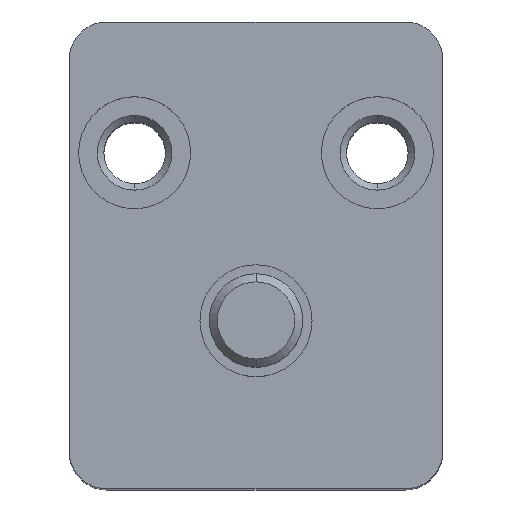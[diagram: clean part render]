
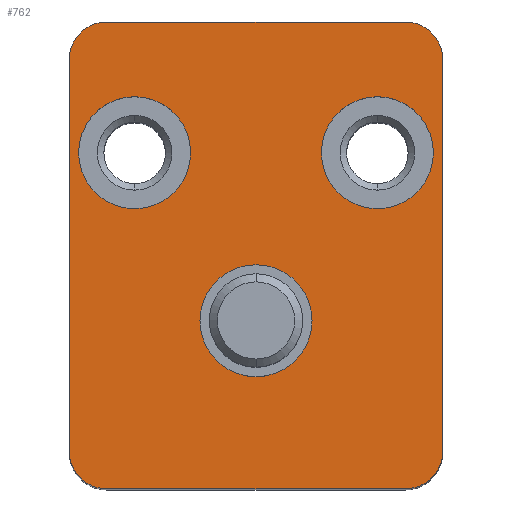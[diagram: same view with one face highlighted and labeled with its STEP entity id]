
A CAD part, top view. The second image highlights one B-rep face of the part: STEP entity #762.
In plain terms, the highlighted planar face has unit normal (0, 0, 1).
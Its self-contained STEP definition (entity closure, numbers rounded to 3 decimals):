
#21=CARTESIAN_POINT('',(-6.5,9.,0.));
#22=DIRECTION('',(0.,0.,1.));
#23=DIRECTION('',(0.,1.,0.));
#24=AXIS2_PLACEMENT_3D('',#21,#22,#23);
#26=CARTESIAN_POINT('',(-6.5,9.,0.));
#27=DIRECTION('',(0.,0.,1.));
#28=DIRECTION('',(0.,-1.,0.));
#29=AXIS2_PLACEMENT_3D('',#26,#27,#28);
#31=CARTESIAN_POINT('',(6.5,9.,0.));
#32=DIRECTION('',(0.,0.,-1.));
#33=DIRECTION('',(0.,1.,0.));
#34=AXIS2_PLACEMENT_3D('',#31,#32,#33);
#36=CARTESIAN_POINT('',(6.5,9.,0.));
#37=DIRECTION('',(0.,0.,-1.));
#38=DIRECTION('',(0.,-1.,0.));
#39=AXIS2_PLACEMENT_3D('',#36,#37,#38);
#41=CARTESIAN_POINT('',(0.,0.,0.));
#42=DIRECTION('',(0.,0.,-1.));
#43=DIRECTION('',(0.,1.,0.));
#44=AXIS2_PLACEMENT_3D('',#41,#42,#43);
#46=CARTESIAN_POINT('',(0.,0.,0.));
#47=DIRECTION('',(0.,0.,-1.));
#48=DIRECTION('',(0.,-1.,0.));
#49=AXIS2_PLACEMENT_3D('',#46,#47,#48);
#51=CARTESIAN_POINT('',(8.,14.,0.));
#52=DIRECTION('',(0.,0.,1.));
#53=DIRECTION('',(1.,0.,0.));
#54=AXIS2_PLACEMENT_3D('',#51,#52,#53);
#56=DIRECTION('',(0.,-1.,0.));
#57=VECTOR('',#56,21.);
#58=CARTESIAN_POINT('',(10.,14.,0.));
#59=LINE('',#58,#57);
#60=CARTESIAN_POINT('',(8.,-7.,0.));
#61=DIRECTION('',(0.,0.,1.));
#62=DIRECTION('',(0.,-1.,0.));
#63=AXIS2_PLACEMENT_3D('',#60,#61,#62);
#65=DIRECTION('',(-1.,0.,0.));
#66=VECTOR('',#65,16.);
#67=CARTESIAN_POINT('',(8.,-9.,0.));
#68=LINE('',#67,#66);
#69=CARTESIAN_POINT('',(-8.,-7.,0.));
#70=DIRECTION('',(0.,0.,1.));
#71=DIRECTION('',(-1.,0.,0.));
#72=AXIS2_PLACEMENT_3D('',#69,#70,#71);
#74=DIRECTION('',(0.,1.,0.));
#75=VECTOR('',#74,21.);
#76=CARTESIAN_POINT('',(-10.,-7.,0.));
#77=LINE('',#76,#75);
#78=CARTESIAN_POINT('',(-8.,14.,0.));
#79=DIRECTION('',(0.,0.,1.));
#80=DIRECTION('',(0.,1.,0.));
#81=AXIS2_PLACEMENT_3D('',#78,#79,#80);
#83=DIRECTION('',(1.,0.,0.));
#84=VECTOR('',#83,16.);
#85=CARTESIAN_POINT('',(-8.,16.,0.));
#86=LINE('',#85,#84);
#593=CARTESIAN_POINT('',(-6.5,12.,0.));
#594=CARTESIAN_POINT('',(-6.5,6.,0.));
#595=VERTEX_POINT('',#593);
#596=VERTEX_POINT('',#594);
#625=CARTESIAN_POINT('',(6.5,12.,0.));
#626=CARTESIAN_POINT('',(6.5,6.,0.));
#627=VERTEX_POINT('',#625);
#628=VERTEX_POINT('',#626);
#645=CARTESIAN_POINT('',(0.,3.,0.));
#646=CARTESIAN_POINT('',(0.,-3.,0.));
#647=VERTEX_POINT('',#645);
#648=VERTEX_POINT('',#646);
#693=CARTESIAN_POINT('',(10.,14.,0.));
#694=VERTEX_POINT('',#693);
#695=CARTESIAN_POINT('',(8.,16.,0.));
#696=VERTEX_POINT('',#695);
#701=CARTESIAN_POINT('',(-8.,16.,0.));
#702=VERTEX_POINT('',#701);
#703=CARTESIAN_POINT('',(-10.,14.,0.));
#704=VERTEX_POINT('',#703);
#709=CARTESIAN_POINT('',(8.,-9.,0.));
#710=VERTEX_POINT('',#709);
#711=CARTESIAN_POINT('',(10.,-7.,0.));
#712=VERTEX_POINT('',#711);
#717=CARTESIAN_POINT('',(-10.,-7.,0.));
#718=VERTEX_POINT('',#717);
#719=CARTESIAN_POINT('',(-8.,-9.,0.));
#720=VERTEX_POINT('',#719);
#721=CARTESIAN_POINT('',(0.,0.,0.));
#722=DIRECTION('',(0.,0.,1.));
#723=DIRECTION('',(1.,0.,0.));
#724=AXIS2_PLACEMENT_3D('',#721,#722,#723);
#725=PLANE('',#724);
#727=ORIENTED_EDGE('',*,*,#726,.F.);
#729=ORIENTED_EDGE('',*,*,#728,.T.);
#731=ORIENTED_EDGE('',*,*,#730,.F.);
#733=ORIENTED_EDGE('',*,*,#732,.T.);
#735=ORIENTED_EDGE('',*,*,#734,.F.);
#737=ORIENTED_EDGE('',*,*,#736,.T.);
#739=ORIENTED_EDGE('',*,*,#738,.F.);
#741=ORIENTED_EDGE('',*,*,#740,.T.);
#742=EDGE_LOOP('',(#727,#729,#731,#733,#735,#737,#739,#741));
#743=FACE_OUTER_BOUND('',#742,.F.);
#745=ORIENTED_EDGE('',*,*,#744,.F.);
#747=ORIENTED_EDGE('',*,*,#746,.F.);
#748=EDGE_LOOP('',(#745,#747));
#749=FACE_BOUND('',#748,.F.);
#751=ORIENTED_EDGE('',*,*,#750,.F.);
#753=ORIENTED_EDGE('',*,*,#752,.F.);
#754=EDGE_LOOP('',(#751,#753));
#755=FACE_BOUND('',#754,.F.);
#757=ORIENTED_EDGE('',*,*,#756,.T.);
#759=ORIENTED_EDGE('',*,*,#758,.T.);
#760=EDGE_LOOP('',(#757,#759));
#761=FACE_BOUND('',#760,.F.);
#762=ADVANCED_FACE('',(#743,#749,#755,#761),#725,.T.);
#25=CIRCLE('',#24,3.);
#30=CIRCLE('',#29,3.);
#35=CIRCLE('',#34,3.);
#40=CIRCLE('',#39,3.);
#45=CIRCLE('',#44,3.);
#50=CIRCLE('',#49,3.);
#55=CIRCLE('',#54,2.);
#64=CIRCLE('',#63,2.);
#73=CIRCLE('',#72,2.);
#82=CIRCLE('',#81,2.);
#726=EDGE_CURVE('',#694,#696,#55,.T.);
#728=EDGE_CURVE('',#694,#712,#59,.T.);
#730=EDGE_CURVE('',#710,#712,#64,.T.);
#732=EDGE_CURVE('',#710,#720,#68,.T.);
#734=EDGE_CURVE('',#718,#720,#73,.T.);
#736=EDGE_CURVE('',#718,#704,#77,.T.);
#738=EDGE_CURVE('',#702,#704,#82,.T.);
#740=EDGE_CURVE('',#702,#696,#86,.T.);
#744=EDGE_CURVE('',#627,#628,#35,.T.);
#746=EDGE_CURVE('',#628,#627,#40,.T.);
#750=EDGE_CURVE('',#647,#648,#45,.T.);
#752=EDGE_CURVE('',#648,#647,#50,.T.);
#756=EDGE_CURVE('',#595,#596,#25,.T.);
#758=EDGE_CURVE('',#596,#595,#30,.T.);
